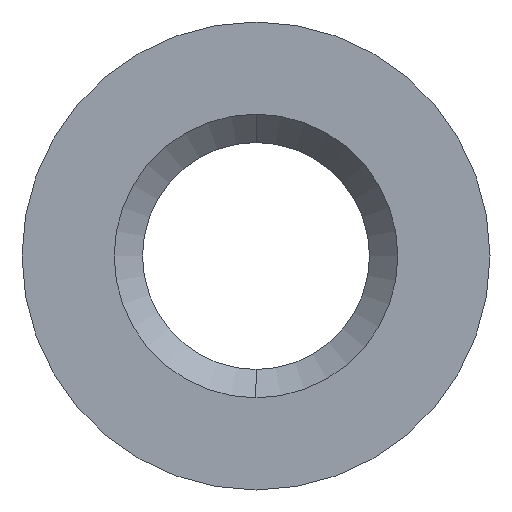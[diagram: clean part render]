
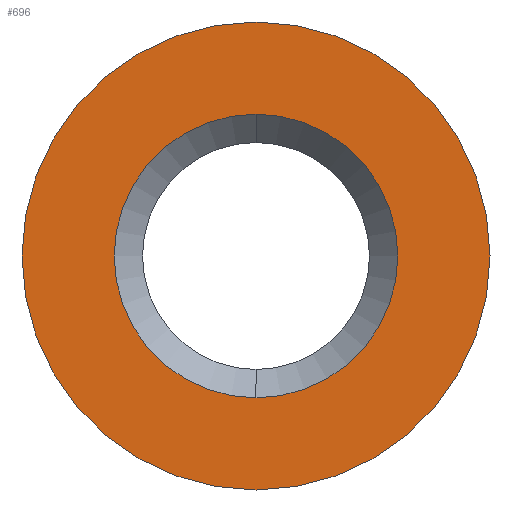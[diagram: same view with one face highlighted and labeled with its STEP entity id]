
A CAD part, left-side view. The second image highlights one B-rep face of the part: STEP entity #696.
In plain terms, the highlighted planar face has unit normal (-1, 0, 0).
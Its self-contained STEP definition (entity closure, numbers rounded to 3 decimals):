
#10 = CIRCLE ( 'NONE', #545, 1. ) ;
#33 = CARTESIAN_POINT ( 'NONE',  ( -4.1, 0., 0. ) ) ;
#38 = CARTESIAN_POINT ( 'NONE',  ( -4.1, 0., 0. ) ) ;
#78 = EDGE_CURVE ( 'NONE', #786, #551, #778, .T. ) ;
#92 = AXIS2_PLACEMENT_3D ( 'NONE', #33, #827, #200 ) ;
#94 = CIRCLE ( 'NONE', #621, 1.65 ) ;
#155 = EDGE_CURVE ( 'NONE', #551, #786, #10, .T. ) ;
#169 = EDGE_LOOP ( 'NONE', ( #889, #619 ) ) ;
#170 = CARTESIAN_POINT ( 'NONE',  ( -4.1, 1.65, 0. ) ) ;
#200 = DIRECTION ( 'NONE',  ( 0., 0., 1. ) ) ;
#204 = CARTESIAN_POINT ( 'NONE',  ( -4.1, 0., 1.65 ) ) ;
#277 = CIRCLE ( 'NONE', #713, 1.65 ) ;
#290 = CARTESIAN_POINT ( 'NONE',  ( -4.1, 0., 0. ) ) ;
#351 = CARTESIAN_POINT ( 'NONE',  ( -4.1, 0., -1. ) ) ;
#383 = EDGE_LOOP ( 'NONE', ( #668, #636 ) ) ;
#398 = CARTESIAN_POINT ( 'NONE',  ( -4.1, 0., 0. ) ) ;
#403 = CARTESIAN_POINT ( 'NONE',  ( -4.1, 0., 1. ) ) ;
#447 = DIRECTION ( 'NONE',  ( 0., 0., 1. ) ) ;
#467 = AXIS2_PLACEMENT_3D ( 'NONE', #170, #874, #447 ) ;
#490 = VERTEX_POINT ( 'NONE', #502 ) ;
#502 = CARTESIAN_POINT ( 'NONE',  ( -4.1, 0., -1.65 ) ) ;
#511 = DIRECTION ( 'NONE',  ( 1., 0., 0. ) ) ;
#518 = FACE_OUTER_BOUND ( 'NONE', #383, .T. ) ;
#545 = AXIS2_PLACEMENT_3D ( 'NONE', #290, #511, #854 ) ;
#550 = DIRECTION ( 'NONE',  ( 0., 0., -1. ) ) ;
#551 = VERTEX_POINT ( 'NONE', #351 ) ;
#591 = FACE_BOUND ( 'NONE', #169, .T. ) ;
#619 = ORIENTED_EDGE ( 'NONE', *, *, #155, .T. ) ;
#621 = AXIS2_PLACEMENT_3D ( 'NONE', #398, #892, #550 ) ;
#636 = ORIENTED_EDGE ( 'NONE', *, *, #767, .F. ) ;
#668 = ORIENTED_EDGE ( 'NONE', *, *, #804, .F. ) ;
#696 = ADVANCED_FACE ( 'NONE', ( #591, #518 ), #799, .T. ) ;
#713 = AXIS2_PLACEMENT_3D ( 'NONE', #38, #828, #757 ) ;
#757 = DIRECTION ( 'NONE',  ( 0., 0., -1. ) ) ;
#767 = EDGE_CURVE ( 'NONE', #813, #490, #277, .T. ) ;
#778 = CIRCLE ( 'NONE', #92, 1. ) ;
#786 = VERTEX_POINT ( 'NONE', #403 ) ;
#799 = PLANE ( 'NONE',  #467 ) ;
#804 = EDGE_CURVE ( 'NONE', #490, #813, #94, .T. ) ;
#813 = VERTEX_POINT ( 'NONE', #204 ) ;
#827 = DIRECTION ( 'NONE',  ( 1., 0., 0. ) ) ;
#828 = DIRECTION ( 'NONE',  ( 1., 0., 0. ) ) ;
#854 = DIRECTION ( 'NONE',  ( 0., 0., 1. ) ) ;
#874 = DIRECTION ( 'NONE',  ( -1., 0., 0. ) ) ;
#889 = ORIENTED_EDGE ( 'NONE', *, *, #78, .T. ) ;
#892 = DIRECTION ( 'NONE',  ( 1., 0., 0. ) ) ;
